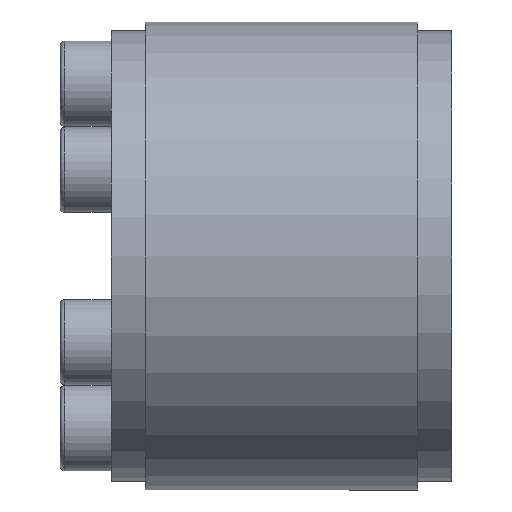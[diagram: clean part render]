
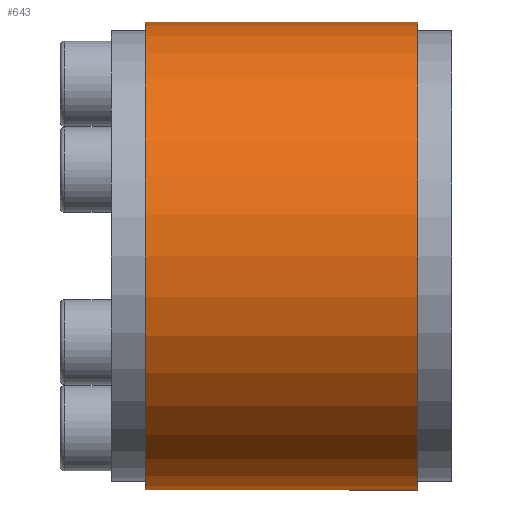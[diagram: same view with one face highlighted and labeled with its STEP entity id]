
A CAD part, left-side view. The second image highlights one B-rep face of the part: STEP entity #643.
In plain terms, the highlighted cylindrical face has radius 27.5 mm (diameter 55 mm), a partial arc.
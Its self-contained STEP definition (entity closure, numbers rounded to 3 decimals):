
#7 = ORIENTED_EDGE ( 'NONE', *, *, #1730, .T. ) ;
#9 = EDGE_CURVE ( 'NONE', #1403, #1396, #1011, .T. ) ;
#154 = VERTEX_POINT ( 'NONE', #362 ) ;
#166 = DIRECTION ( 'NONE',  ( 0., -1., 0. ) ) ;
#188 = VECTOR ( 'NONE', #166, 1000. ) ;
#362 = CARTESIAN_POINT ( 'NONE',  ( 0., -16., 27.5 ) ) ;
#366 = DIRECTION ( 'NONE',  ( 0., 0., -1. ) ) ;
#373 = LINE ( 'NONE', #2212, #1328 ) ;
#406 = CARTESIAN_POINT ( 'NONE',  ( 0., 16., 27.5 ) ) ;
#470 = DIRECTION ( 'NONE',  ( 0., 0., -1. ) ) ;
#643 = ADVANCED_FACE ( 'NONE', ( #1127 ), #2046, .T. ) ;
#807 = CARTESIAN_POINT ( 'NONE',  ( 0., 16., 0. ) ) ;
#1011 = CIRCLE ( 'NONE', #1589, 27.5 ) ;
#1105 = CARTESIAN_POINT ( 'NONE',  ( 0., -16., -27.5 ) ) ;
#1119 = LINE ( 'NONE', #1334, #188 ) ;
#1127 = FACE_OUTER_BOUND ( 'NONE', #2189, .T. ) ;
#1236 = AXIS2_PLACEMENT_3D ( 'NONE', #2392, #1467, #2211 ) ;
#1314 = DIRECTION ( 'NONE',  ( 0., -1., 0. ) ) ;
#1328 = VECTOR ( 'NONE', #1450, 1000. ) ;
#1334 = CARTESIAN_POINT ( 'NONE',  ( 0., 0., 27.5 ) ) ;
#1343 = AXIS2_PLACEMENT_3D ( 'NONE', #1508, #1314, #366 ) ;
#1344 = VERTEX_POINT ( 'NONE', #1105 ) ;
#1345 = ORIENTED_EDGE ( 'NONE', *, *, #9, .T. ) ;
#1358 = CIRCLE ( 'NONE', #1343, 27.5 ) ;
#1363 = EDGE_CURVE ( 'NONE', #154, #1344, #1358, .T. ) ;
#1365 = ORIENTED_EDGE ( 'NONE', *, *, #1363, .F. ) ;
#1396 = VERTEX_POINT ( 'NONE', #1926 ) ;
#1403 = VERTEX_POINT ( 'NONE', #406 ) ;
#1450 = DIRECTION ( 'NONE',  ( 0., -1., 0. ) ) ;
#1467 = DIRECTION ( 'NONE',  ( 0., -1., 0. ) ) ;
#1508 = CARTESIAN_POINT ( 'NONE',  ( 0., -16., 0. ) ) ;
#1589 = AXIS2_PLACEMENT_3D ( 'NONE', #807, #2139, #470 ) ;
#1730 = EDGE_CURVE ( 'NONE', #1396, #1344, #373, .T. ) ;
#1784 = ORIENTED_EDGE ( 'NONE', *, *, #2113, .F. ) ;
#1926 = CARTESIAN_POINT ( 'NONE',  ( 0., 16., -27.5 ) ) ;
#2046 = CYLINDRICAL_SURFACE ( 'NONE', #1236, 27.5 ) ;
#2113 = EDGE_CURVE ( 'NONE', #1403, #154, #1119, .T. ) ;
#2139 = DIRECTION ( 'NONE',  ( 0., -1., 0. ) ) ;
#2189 = EDGE_LOOP ( 'NONE', ( #1784, #1345, #7, #1365 ) ) ;
#2211 = DIRECTION ( 'NONE',  ( 0., 0., -1. ) ) ;
#2212 = CARTESIAN_POINT ( 'NONE',  ( 0., 0., -27.5 ) ) ;
#2392 = CARTESIAN_POINT ( 'NONE',  ( 0., 0., 0. ) ) ;
